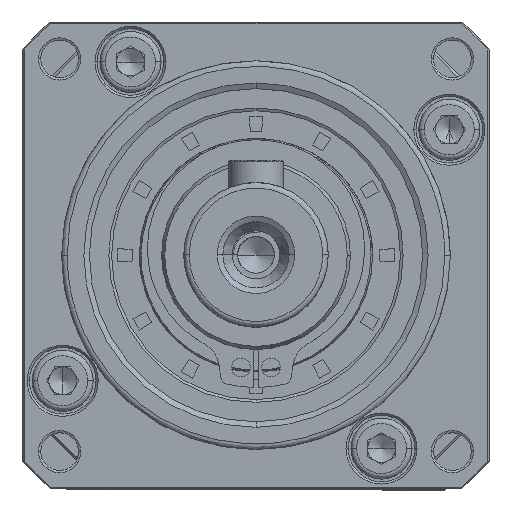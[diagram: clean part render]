
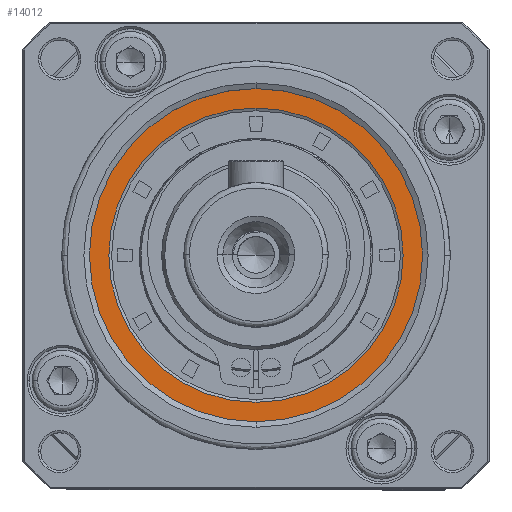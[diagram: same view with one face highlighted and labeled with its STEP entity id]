
A CAD part, top view. The second image highlights one B-rep face of the part: STEP entity #14012.
In plain terms, the highlighted planar face has unit normal (0, 0, 1).
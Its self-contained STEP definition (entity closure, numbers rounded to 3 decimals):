
#3173 = AXIS2_PLACEMENT_3D ( 'NONE', #30926, #77223, #37602 ) ;
#4710 = VERTEX_POINT ( 'NONE', #83700 ) ;
#8559 = DIRECTION ( 'NONE',  ( 0., 0., -1. ) ) ;
#9189 = DIRECTION ( 'NONE',  ( 0., 0., -1. ) ) ;
#12396 = ORIENTED_EDGE ( 'NONE', *, *, #24661, .T. ) ;
#14012 = ADVANCED_FACE ( 'NONE', ( #60936, #62996 ), #76929, .T. ) ;
#14431 = CIRCLE ( 'NONE', #44356, 13.25 ) ;
#17460 = ORIENTED_EDGE ( 'NONE', *, *, #83805, .T. ) ;
#18483 = CARTESIAN_POINT ( 'NONE',  ( -18.534, 15.518, 88.65 ) ) ;
#19021 = EDGE_CURVE ( 'NONE', #56603, #43160, #35590, .T. ) ;
#24496 = ORIENTED_EDGE ( 'NONE', *, *, #65986, .T. ) ;
#24661 = EDGE_CURVE ( 'NONE', #4710, #59715, #63759, .T. ) ;
#25873 = DIRECTION ( 'NONE',  ( 0., 0., 1. ) ) ;
#30926 = CARTESIAN_POINT ( 'NONE',  ( -18.534, 2.268, 88.65 ) ) ;
#35590 = CIRCLE ( 'NONE', #59636, 13.25 ) ;
#35670 = DIRECTION ( 'NONE',  ( 0., 0., 1. ) ) ;
#37602 = DIRECTION ( 'NONE',  ( 1., 0., 0. ) ) ;
#41480 = AXIS2_PLACEMENT_3D ( 'NONE', #65501, #25873, #72184 ) ;
#43160 = VERTEX_POINT ( 'NONE', #18483 ) ;
#44356 = AXIS2_PLACEMENT_3D ( 'NONE', #48359, #8559, #54990 ) ;
#48359 = CARTESIAN_POINT ( 'NONE',  ( -18.534, 2.268, 88.65 ) ) ;
#48693 = ORIENTED_EDGE ( 'NONE', *, *, #19021, .T. ) ;
#48974 = CARTESIAN_POINT ( 'NONE',  ( -18.534, 2.268, 88.65 ) ) ;
#54990 = DIRECTION ( 'NONE',  ( 0., -1., 0. ) ) ;
#56603 = VERTEX_POINT ( 'NONE', #63226 ) ;
#56783 = DIRECTION ( 'NONE',  ( 0., -1., 0. ) ) ;
#59636 = AXIS2_PLACEMENT_3D ( 'NONE', #48974, #9189, #56783 ) ;
#59715 = VERTEX_POINT ( 'NONE', #60638 ) ;
#60638 = CARTESIAN_POINT ( 'NONE',  ( -3.534, 2.268, 88.65 ) ) ;
#60936 = FACE_OUTER_BOUND ( 'NONE', #75320, .T. ) ;
#62996 = FACE_BOUND ( 'NONE', #81070, .T. ) ;
#63226 = CARTESIAN_POINT ( 'NONE',  ( -18.534, -10.982, 88.65 ) ) ;
#63367 = AXIS2_PLACEMENT_3D ( 'NONE', #75335, #35670, #81922 ) ;
#63759 = CIRCLE ( 'NONE', #63367, 15. ) ;
#65501 = CARTESIAN_POINT ( 'NONE',  ( -18.534, 2.268, 88.65 ) ) ;
#65986 = EDGE_CURVE ( 'NONE', #59715, #4710, #82501, .T. ) ;
#72184 = DIRECTION ( 'NONE',  ( 1., 0., 0. ) ) ;
#75320 = EDGE_LOOP ( 'NONE', ( #24496, #12396 ) ) ;
#75335 = CARTESIAN_POINT ( 'NONE',  ( -18.534, 2.268, 88.65 ) ) ;
#76929 = PLANE ( 'NONE',  #3173 ) ;
#77223 = DIRECTION ( 'NONE',  ( 0., 0., 1. ) ) ;
#81070 = EDGE_LOOP ( 'NONE', ( #48693, #17460 ) ) ;
#81922 = DIRECTION ( 'NONE',  ( 1., 0., 0. ) ) ;
#82501 = CIRCLE ( 'NONE', #41480, 15. ) ;
#83700 = CARTESIAN_POINT ( 'NONE',  ( -33.534, 2.268, 88.65 ) ) ;
#83805 = EDGE_CURVE ( 'NONE', #43160, #56603, #14431, .T. ) ;
